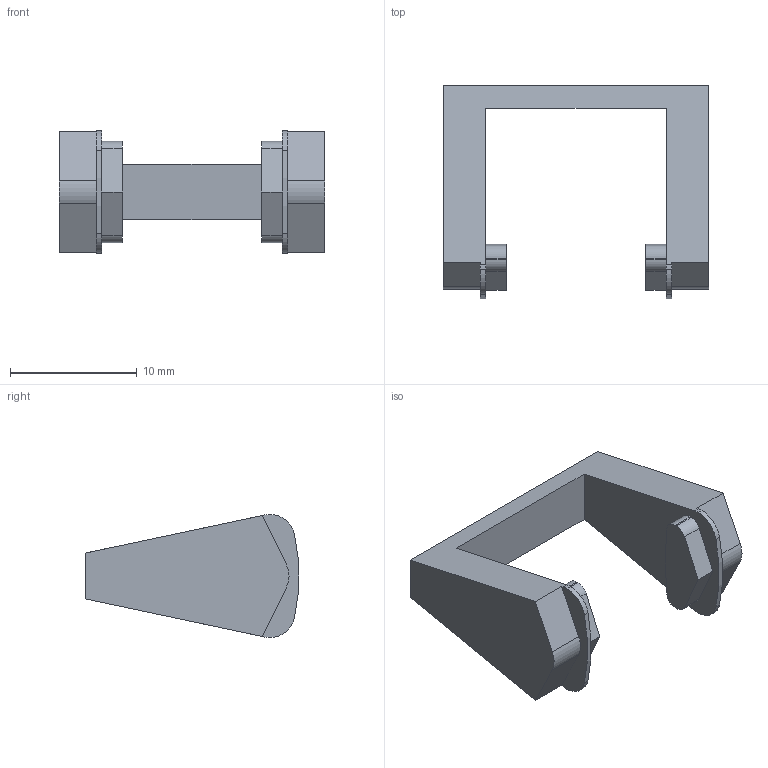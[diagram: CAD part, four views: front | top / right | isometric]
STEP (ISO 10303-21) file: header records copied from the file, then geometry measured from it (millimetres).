
FILE_DESCRIPTION (( 'STEP AP214' ), '1' );
FILE_NAME ('Winkelbegrenzung 120_136566.STEP', '2010-11-16T09:03:57', ( 'grass' ), ( '' ), 'SwSTEP 2.0', 'SolidWorks 2010', '' );
FILE_SCHEMA (( 'AUTOMOTIVE_DESIGN' ));
Length unit declared in the file: millimetre
Products named in the file (1): Winkelbegrenzung 120_136566
Bounding box: 21 x 16.86 x 9.73 mm (x, y, z)
Volume: 875.2 mm3; surface area: 972.4 mm2
Topology: 1 solids, 1 shells, 48 faces, 132 edges, 88 vertices
Faces by surface type: plane 28, cylinder 20
Entity records: 1570 total; most frequent: DIRECTION 270, CARTESIAN_POINT 269, ORIENTED_EDGE 264, EDGE_CURVE 132, VECTOR 92, LINE 92, AXIS2_PLACEMENT_3D 89, VERTEX_POINT 88
